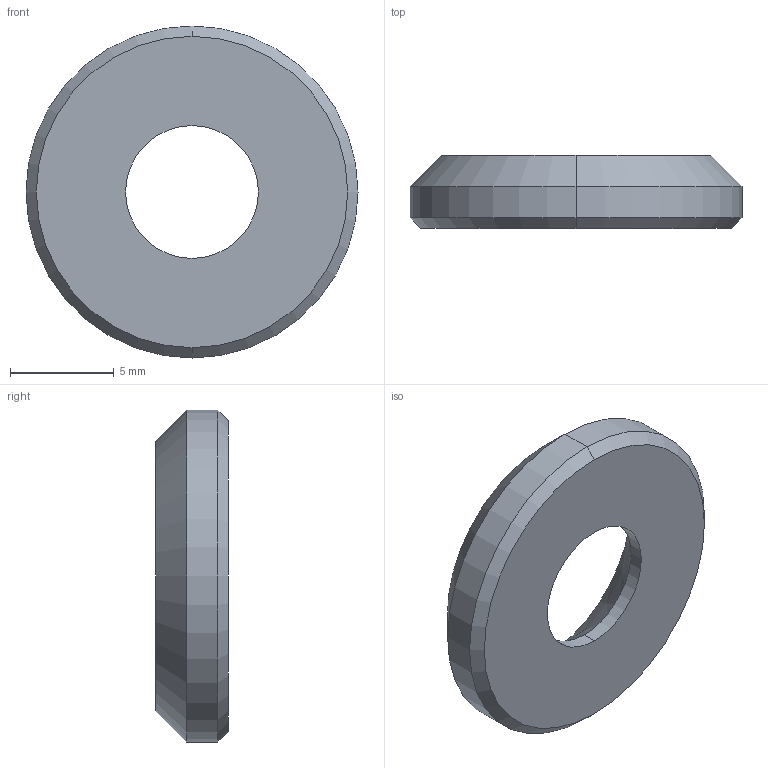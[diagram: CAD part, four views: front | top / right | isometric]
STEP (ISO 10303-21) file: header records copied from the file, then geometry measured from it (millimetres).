
FILE_DESCRIPTION (( 'STEP AP203' ), '1' );
FILE_NAME ('084.303.010.STEP', '2021-03-24T07:48:21', ( '' ), ( '' ), 'SwSTEP 2.0', 'SolidWorks 2018', '' );
FILE_SCHEMA (( 'CONFIG_CONTROL_DESIGN' ));
Length unit declared in the file: millimetre
Products named in the file (1): 084.303.010
Bounding box: 16 x 3.5 x 16 mm (x, y, z)
Volume: 430.2 mm3; surface area: 499.2 mm2
Topology: 1 solids, 1 shells, 12 faces, 24 edges, 14 vertices
Faces by surface type: cone 6, cylinder 4, plane 2
Entity records: 395 total; most frequent: DIRECTION 64, CARTESIAN_POINT 51, ORIENTED_EDGE 48, AXIS2_PLACEMENT_3D 27, EDGE_CURVE 24, EDGE_LOOP 14, VERTEX_POINT 14, CIRCLE 14
